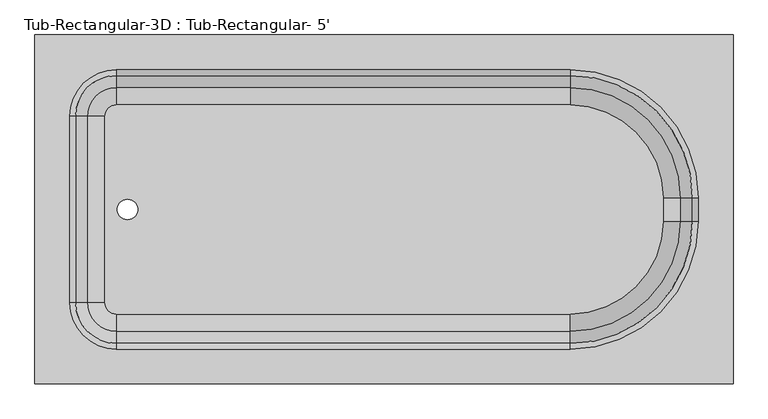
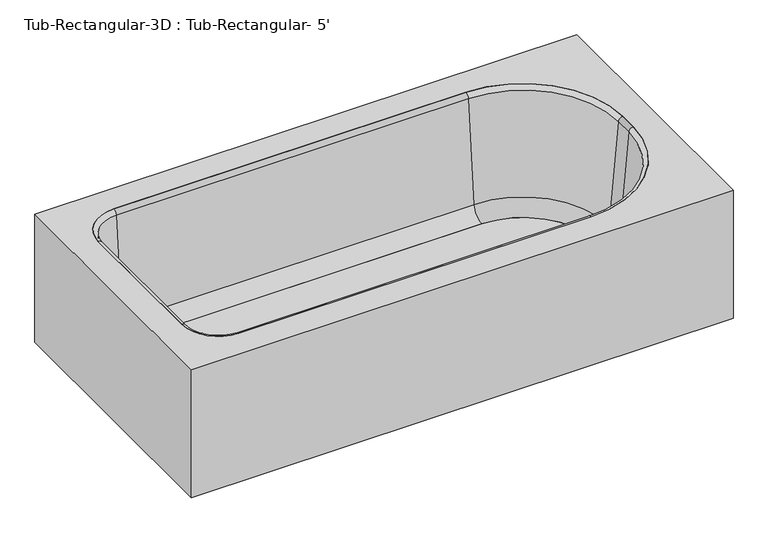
"""IFC4 building model written with IfcOpenShell, lengths in millimetres: flow terminal geometry, Tub-Rectangular-3D : Tub-Rectangular- 5'."""

from ifc_helpers import new_model, si_unit, point, frame, frame_2d, origin, place, context, project, spatial, polyline, circle_curve, ellipse_curve, trimmed, segment, composite_curve, outline, extrude, source, transform, mapped, element, save
from ifc_brep_helpers import plane_surface, cylinder_surface, revolved_surface, advanced_brep


def tub_rectangular_3d_tub_rectangular_5_7cde22e7(model_context):
    return source(origin(), model_context, "Body", "SolidModel", [
        advanced_brep(
        [(413.3970313, -823.9125, 381.0), (413.3970313, -61.9125, 381.0), (-1110.6029687, -61.9125, 381.0), (-1110.6029687, -823.9125, 381.0), (-932.8029687, -747.7125, 381.0), (-1034.4029687, -646.1125, 381.0), (-1034.4029687, -239.7125, 381.0), (-932.8029687, -138.1125, 381.0), (57.7970313, -138.1125, 381.0), (337.1970313, -417.5125, 381.0), (337.1970313, -468.3125, 381.0), (57.7970313, -747.7125, 381.0), (394.3470313, -804.8625, 361.95), (-1091.5529687, -804.8625, 361.95), (-1091.5529687, -80.9625, 361.95), (394.3470313, -80.9625, 361.95), (-932.8029687, -747.7125, 361.95), (57.7970313, -747.7125, 361.95), (337.1970313, -468.3125, 361.95), (337.1970313, -417.5125, 361.95), (57.7970313, -138.1125, 361.95), (-932.8029687, -138.1125, 361.95), (-1034.4029687, -239.7125, 361.95), (-1034.4029687, -646.1125, 361.95), (-1110.6029687, -823.9125, 0.0), (413.3970313, -823.9125, 0.0), (-1110.6029687, -61.9125, 0.0), (413.3970313, -61.9125, 0.0), (394.3470313, -804.8625, 0.0), (394.3470313, -80.9625, 0.0), (-1091.5529687, -80.9625, 0.0), (-1091.5529687, -804.8625, 0.0)],
        [
            (0, 1),
            (1, 2),
            (2, 3),
            (3, 0),
            (4, 5, circle_curve(frame((-932.8029687, -646.1125, 381.0), z_axis=(0.0, 0.0, -1.0), x_axis=(0.0, -1.0, 0.0)), 101.6)),
            (5, 6),
            (6, 7, circle_curve(frame((-932.8029687, -239.7125, 381.0), z_axis=(0.0, 0.0, -1.0), x_axis=(0.0, -1.0, 0.0)), 101.6)),
            (7, 8),
            (8, 9, circle_curve(frame((57.7970313, -417.5125, 381.0), z_axis=(0.0, 0.0, -1.0), x_axis=(0.0, -1.0, 0.0)), 279.4)),
            (9, 10),
            (10, 11, circle_curve(frame((57.7970313, -468.3125, 381.0), z_axis=(0.0, 0.0, -1.0), x_axis=(0.0, -1.0, 0.0)), 279.4)),
            (11, 4),
            (12, 13),
            (13, 14),
            (14, 15),
            (15, 12),
            (16, 17),
            (17, 18, circle_curve(frame((57.7970313, -468.3125, 361.95), z_axis=(0.0, 0.0, 1.0), x_axis=(0.0, -1.0, 0.0)), 279.4)),
            (18, 19),
            (19, 20, circle_curve(frame((57.7970313, -417.5125, 361.95), z_axis=(0.0, 0.0, 1.0), x_axis=(0.0, -1.0, 0.0)), 279.4)),
            (20, 21),
            (21, 22, circle_curve(frame((-932.8029687, -239.7125, 361.95), z_axis=(0.0, 0.0, 1.0), x_axis=(0.0, -1.0, 0.0)), 101.6)),
            (22, 23),
            (23, 16, circle_curve(frame((-932.8029687, -646.1125, 361.95), z_axis=(0.0, 0.0, 1.0), x_axis=(0.0, -1.0, 0.0)), 101.6)),
            (3, 24),
            (24, 25),
            (25, 0),
            (2, 26),
            (26, 24),
            (1, 27),
            (27, 26),
            (25, 27),
            (11, 17),
            (16, 4),
            (10, 18),
            (9, 19),
            (8, 20),
            (7, 21),
            (6, 22),
            (5, 23),
            (28, 29),
            (29, 30),
            (30, 31),
            (31, 28),
            (28, 12),
            (15, 29),
            (14, 30),
            (13, 31),
        ],
        [
            plane_surface(frame((-1110.6029687, -823.9125, 381.0), z_axis=(0.0, 0.0, 1.0), x_axis=(-1.0, 0.0, 0.0))),
            plane_surface(frame((-1110.6029687, -823.9125, 361.95), z_axis=(0.0, 0.0, -1.0), x_axis=(1.0, 0.0, 0.0))),
            plane_surface(frame((413.3970313, -823.9125, 381.0), z_axis=(0.0, -1.0, 0.0), x_axis=(0.0, 0.0, -1.0))),
            plane_surface(frame((-1110.6029687, -823.9125, 381.0), z_axis=(-1.0, 0.0, 0.0), x_axis=(0.0, 0.0, -1.0))),
            plane_surface(frame((-1110.6029687, -61.9125, 381.0), z_axis=(0.0, 1.0, 0.0), x_axis=(0.0, 0.0, -1.0))),
            plane_surface(frame((413.3970313, -61.9125, 381.0), z_axis=(1.0, 0.0, 0.0), x_axis=(0.0, 0.0, -1.0))),
            plane_surface(frame((-932.8029687, -747.7125, 381.0), z_axis=(0.0, 1.0, 0.0), x_axis=(0.0, 0.0, -1.0))),
            revolved_surface(polyline([(57.7970313, -747.7125, 361.95), (57.7970313, -747.7125, 381.0)]), (57.7970313, -468.3125, 381.0), (0.0, 0.0, -1.0)),
            plane_surface(frame((337.1970313, -468.3125, 381.0), z_axis=(-1.0, 0.0, 0.0), x_axis=(0.0, 0.0, -1.0))),
            revolved_surface(polyline([(57.7970313, -696.9124999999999, 361.95), (57.7970313, -696.9124999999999, 381.0)]), (57.7970313, -417.5125, 381.0), (0.0, 0.0, -1.0)),
            plane_surface(frame((57.7970313, -138.1125, 381.0), z_axis=(0.0, -1.0, 0.0), x_axis=(0.0, 0.0, -1.0))),
            revolved_surface(polyline([(-932.8029687, -341.3125, 361.95), (-932.8029687, -341.3125, 381.0)]), (-932.8029687, -239.7125, 381.0), (0.0, 0.0, -1.0)),
            plane_surface(frame((-1034.4029687, -239.7125, 381.0), z_axis=(1.0, 0.0, 0.0), x_axis=(0.0, 0.0, -1.0))),
            revolved_surface(polyline([(-932.8029687, -747.7125, 361.95), (-932.8029687, -747.7125, 381.0)]), (-932.8029687, -646.1125, 381.0), (0.0, 0.0, -1.0)),
            plane_surface(frame((-1110.6029687, -823.9125, 0.0), z_axis=(0.0, 0.0, -1.0), x_axis=(1.0, 0.0, 0.0))),
            plane_surface(frame((394.3470313, -804.8625, 361.95), z_axis=(-1.0, 0.0, 0.0), x_axis=(0.0, 0.0, -1.0))),
            plane_surface(frame((394.3470313, -80.9625, 361.95), z_axis=(0.0, -1.0, 0.0), x_axis=(0.0, 0.0, -1.0))),
            plane_surface(frame((-1091.5529687, -80.9625, 361.95), z_axis=(1.0, 0.0, 0.0), x_axis=(0.0, 0.0, -1.0))),
            plane_surface(frame((-1091.5529687, -804.8625, 361.95), z_axis=(0.0, 1.0, 0.0), x_axis=(0.0, 0.0, -1.0))),
        ],
        [
            (0, [[1, 2, 3, 4], [5, 6, 7, 8, 9, 10, 11, 12]]),
            (1, [[13, 14, 15, 16], [17, 18, 19, 20, 21, 22, 23, 24]]),
            (2, [[25, 26, 27, -4]]),
            (3, [[28, 29, -25, -3]]),
            (4, [[30, 31, -28, -2]]),
            (5, [[32, -30, -1, -27]]),
            (6, [[33, -17, 34, -12]]),
            (7, [[35, -18, -33, -11]]),
            (8, [[36, -19, -35, -10]]),
            (9, [[37, -20, -36, -9]]),
            (10, [[38, -21, -37, -8]]),
            (11, [[39, -22, -38, -7]]),
            (12, [[40, -23, -39, -6]]),
            (13, [[-34, -24, -40, -5]]),
            (14, [[-26, -29, -31, -32], [41, 42, 43, 44]]),
            (15, [[45, -16, 46, -41]]),
            (16, [[-46, -15, 47, -42]]),
            (17, [[-47, -14, 48, -43]]),
            (18, [[-48, -13, -45, -44]]),
        ],
    ),
        extrude(outline(composite_curve([segment(polyline([(57.7970313, -671.1089741), (-932.8029687, -671.1089741)]), True, "CONTINUOUS"), segment(trimmed(circle_curve(frame_2d((-932.8029687, -646.1125)), 24.9964741), [point((-932.8029687, -671.1089741))], [point((-957.7994428, -646.1125))], False, "CARTESIAN"), True, "CONTINUOUS"), segment(polyline([(-957.7994428, -646.1125), (-957.7994428, -239.7125)]), True, "CONTINUOUS"), segment(trimmed(circle_curve(frame_2d((-932.8029687, -239.7125)), 24.9964741), [point((-957.7994428, -239.7125))], [point((-932.8029687, -214.7160259))], False, "CARTESIAN"), True, "CONTINUOUS"), segment(polyline([(-932.8029687, -214.7160259), (57.7970313, -214.7160259)]), True, "CONTINUOUS"), segment(trimmed(circle_curve(frame_2d((57.7970313, -417.5125)), 202.7964741), [point((57.7970313, -214.7160259))], [point((260.5935054, -417.5125))], False, "CARTESIAN"), True, "CONTINUOUS"), segment(polyline([(260.5935054, -417.5125), (260.5935054, -468.3125)]), True, "CONTINUOUS"), segment(trimmed(circle_curve(frame_2d((57.7970313, -468.3125)), 202.7964741), [point((260.5935054, -468.3125))], [point((57.7970313, -671.1089741))], False, "CARTESIAN"), True, "CONTINUOUS")], self_intersect=False), holes=[composite_curve([segment(trimmed(circle_curve(frame_2d((-908.510206, -442.9125)), 22.225), [point((-908.510206, -465.1375))], [point((-908.510206, -420.6875))], True, "CARTESIAN"), True, "CONTINUOUS"), segment(trimmed(circle_curve(frame_2d((-908.510206, -442.9125)), 22.225), [point((-908.510206, -420.6875))], [point((-908.510206, -465.1375))], True, "CARTESIAN"), True, "CONTINUOUS")], self_intersect=False)]), frame((0.0, 0.0, 16.863573), z_axis=(0.0, 0.0, 1.0), x_axis=(1.0, 0.0, 0.0)), (0.0, 0.0, 1.0), 19.05),
        advanced_brep(
        [(-995.7544608, -646.1125, 70.6929392), (-1021.9249722, -646.1125, 369.8232535), (-932.8029687, -735.2345035, 369.8232535), (-932.8029687, -709.0639921, 70.6929392), (-957.7994428, -646.1125, 35.913573), (-932.8029687, -671.1089741, 35.913573), (-957.7994428, -646.1125, 16.863573), (-932.8029687, -671.1089741, 16.863573), (-1034.4029687, -646.1125, 16.863573), (-932.8029687, -747.7125, 16.863573), (-1034.4029687, -646.1125, 381.0), (-932.8029687, -747.7125, 381.0), (-995.7544608, -239.7125, 70.6929392), (-1021.9249722, -239.7125, 369.8232535), (-957.7994428, -239.7125, 35.913573), (-957.7994428, -239.7125, 16.863573), (-1034.4029687, -239.7125, 16.863573), (-1034.4029687, -239.7125, 381.0), (-932.8029687, -176.7610079, 70.6929392), (-932.8029687, -150.5904965, 369.8232535), (-932.8029687, -214.7160259, 35.913573), (-932.8029687, -214.7160259, 16.863573), (-932.8029687, -138.1125, 16.863573), (-932.8029687, -138.1125, 381.0), (57.7970313, -176.7610079, 70.6929392), (57.7970313, -150.5904965, 369.8232535), (57.7970313, -214.7160259, 35.913573), (57.7970313, -214.7160259, 16.863573), (57.7970313, -138.1125, 16.863573), (57.7970313, -138.1125, 381.0), (298.5485234, -417.5125, 70.6929392), (324.7190348, -417.5125, 369.8232535), (260.5935054, -417.5125, 35.913573), (260.5935054, -417.5125, 16.863573), (337.1970313, -417.5125, 16.863573), (337.1970313, -417.5125, 381.0), (298.5485234, -468.3125, 70.6929392), (324.7190348, -468.3125, 369.8232535), (260.5935054, -468.3125, 35.913573), (260.5935054, -468.3125, 16.863573), (337.1970313, -468.3125, 16.863573), (337.1970313, -468.3125, 381.0), (57.7970313, -709.0639921, 70.6929392), (57.7970313, -735.2345035, 369.8232535), (57.7970313, -671.1089741, 35.913573), (57.7970313, -671.1089741, 16.863573), (57.7970313, -747.7125, 16.863573), (57.7970313, -747.7125, 381.0)],
        [
            (0, 1),
            (1, 2, circle_curve(frame((-932.8029687, -646.1125, 369.8232535), z_axis=(0.0, 0.0, 1.0), x_axis=(0.0, -1.0, 0.0)), 89.1220035)),
            (2, 3),
            (3, 0, circle_curve(frame((-932.8029687, -646.1125, 70.6929392), z_axis=(0.0, 0.0, -1.0), x_axis=(0.0, -1.0, 0.0)), 62.9514921)),
            (4, 0, circle_curve(frame((-957.7994428, -646.1125, 74.013573), z_axis=(0.0, 1.0, 0.0), x_axis=(1.0, 0.0, 0.0)), 38.1)),
            (3, 5, circle_curve(frame((-932.8029687, -671.1089741, 74.013573), z_axis=(1.0, 0.0, 0.0), x_axis=(0.0, 1.0, 0.0)), 38.1)),
            (5, 4, circle_curve(frame((-932.8029687, -646.1125, 35.913573), z_axis=(0.0, 0.0, -1.0), x_axis=(0.0, -1.0, 0.0)), 24.9964741)),
            (6, 4),
            (5, 7),
            (7, 6, circle_curve(frame((-932.8029687, -646.1125, 16.863573), z_axis=(0.0, 0.0, -1.0), x_axis=(0.0, -1.0, 0.0)), 24.9964741)),
            (8, 6),
            (7, 9),
            (9, 8, circle_curve(frame((-932.8029687, -646.1125, 16.863573), z_axis=(0.0, 0.0, -1.0), x_axis=(0.0, -1.0, 0.0)), 101.6)),
            (10, 8),
            (9, 11),
            (11, 10, circle_curve(frame((-932.8029687, -646.1125, 381.0), z_axis=(0.0, 0.0, -1.0), x_axis=(0.0, -1.0, 0.0)), 101.6)),
            (1, 10, circle_curve(frame((-1034.4029687, -646.1125, 368.4462547), z_axis=(0.0, -1.0, 0.0), x_axis=(1.0, 0.0, 0.0)), 12.5537453)),
            (11, 2, circle_curve(frame((-932.8029687, -747.7125, 368.4462547), z_axis=(-1.0, 0.0, 0.0), x_axis=(0.0, 1.0, 0.0)), 12.5537453)),
            (0, 12),
            (12, 13),
            (13, 1),
            (4, 14),
            (14, 12, circle_curve(frame((-957.7994428, -239.7125, 74.013573), z_axis=(0.0, 1.0, 0.0), x_axis=(1.0, 0.0, 0.0)), 38.1)),
            (6, 15),
            (15, 14),
            (8, 16),
            (16, 15),
            (10, 17),
            (17, 16),
            (13, 17, circle_curve(frame((-1034.4029687, -239.7125, 368.4462547), z_axis=(0.0, -1.0, 0.0), x_axis=(1.0, 0.0, 0.0)), 12.5537453)),
            (18, 19),
            (19, 13, circle_curve(frame((-932.8029687, -239.7125, 369.8232535), z_axis=(0.0, 0.0, 1.0), x_axis=(-1.0, 0.0, 0.0)), 89.1220035)),
            (12, 18, circle_curve(frame((-932.8029687, -239.7125, 70.6929392), z_axis=(0.0, 0.0, -1.0), x_axis=(-1.0, 0.0, 0.0)), 62.9514921)),
            (20, 18, circle_curve(frame((-932.8029687, -214.7160259, 74.013573), z_axis=(1.0, 0.0, 0.0), x_axis=(0.0, -1.0, 0.0)), 38.1)),
            (14, 20, circle_curve(frame((-932.8029687, -239.7125, 35.913573), z_axis=(0.0, 0.0, -1.0), x_axis=(-1.0, 0.0, 0.0)), 24.9964741)),
            (21, 20),
            (15, 21, circle_curve(frame((-932.8029687, -239.7125, 16.863573), z_axis=(0.0, 0.0, -1.0), x_axis=(-1.0, 0.0, 0.0)), 24.9964741)),
            (22, 21),
            (16, 22, circle_curve(frame((-932.8029687, -239.7125, 16.863573), z_axis=(0.0, 0.0, -1.0), x_axis=(-1.0, 0.0, 0.0)), 101.6)),
            (23, 22),
            (17, 23, circle_curve(frame((-932.8029687, -239.7125, 381.0), z_axis=(0.0, 0.0, -1.0), x_axis=(-1.0, 0.0, 0.0)), 101.6)),
            (19, 23, circle_curve(frame((-932.8029687, -138.1125, 368.4462547), z_axis=(-1.0, 0.0, 0.0), x_axis=(0.0, -1.0, 0.0)), 12.5537453)),
            (18, 24),
            (24, 25),
            (25, 19),
            (20, 26),
            (26, 24, circle_curve(frame((57.7970313, -214.7160259, 74.013573), z_axis=(1.0, 0.0, 0.0), x_axis=(0.0, -1.0, 0.0)), 38.1)),
            (21, 27),
            (27, 26),
            (22, 28),
            (28, 27),
            (23, 29),
            (29, 28),
            (25, 29, circle_curve(frame((57.7970313, -138.1125, 368.4462547), z_axis=(-1.0, 0.0, 0.0), x_axis=(0.0, -1.0, 0.0)), 12.5537453)),
            (30, 31),
            (31, 25, circle_curve(frame((57.7970313, -417.5125, 369.8232535), z_axis=(0.0, 0.0, 1.0), x_axis=(0.0, 1.0, 0.0)), 266.9220035)),
            (24, 30, circle_curve(frame((57.7970313, -417.5125, 70.6929392), z_axis=(0.0, 0.0, -1.0), x_axis=(0.0, 1.0, 0.0)), 240.7514921)),
            (32, 30, circle_curve(frame((260.5935054, -417.5125, 74.013573), z_axis=(0.0, -1.0, 0.0), x_axis=(-1.0, 0.0, 0.0)), 38.1)),
            (26, 32, circle_curve(frame((57.7970313, -417.5125, 35.913573), z_axis=(0.0, 0.0, -1.0), x_axis=(0.0, 1.0, 0.0)), 202.7964741)),
            (33, 32),
            (27, 33, circle_curve(frame((57.7970313, -417.5125, 16.863573), z_axis=(0.0, 0.0, -1.0), x_axis=(0.0, 1.0, 0.0)), 202.7964741)),
            (34, 33),
            (28, 34, circle_curve(frame((57.7970313, -417.5125, 16.863573), z_axis=(0.0, 0.0, -1.0), x_axis=(0.0, 1.0, 0.0)), 279.4)),
            (35, 34),
            (29, 35, circle_curve(frame((57.7970313, -417.5125, 381.0), z_axis=(0.0, 0.0, -1.0), x_axis=(0.0, 1.0, 0.0)), 279.4)),
            (31, 35, circle_curve(frame((337.1970313, -417.5125, 368.4462547), z_axis=(0.0, 1.0, 0.0), x_axis=(-1.0, 0.0, 0.0)), 12.5537453)),
            (30, 36),
            (36, 37),
            (37, 31),
            (32, 38),
            (38, 36, circle_curve(frame((260.5935054, -468.3125, 74.013573), z_axis=(0.0, -1.0, 0.0), x_axis=(-1.0, 0.0, 0.0)), 38.1)),
            (33, 39),
            (39, 38),
            (34, 40),
            (40, 39),
            (35, 41),
            (41, 40),
            (37, 41, circle_curve(frame((337.1970313, -468.3125, 368.4462547), z_axis=(0.0, 1.0, 0.0), x_axis=(-1.0, 0.0, 0.0)), 12.5537453)),
            (42, 43),
            (43, 37, circle_curve(frame((57.7970313, -468.3125, 369.8232535), z_axis=(0.0, 0.0, 1.0), x_axis=(1.0, 0.0, 0.0)), 266.9220035)),
            (36, 42, circle_curve(frame((57.7970313, -468.3125, 70.6929392), z_axis=(0.0, 0.0, -1.0), x_axis=(1.0, 0.0, 0.0)), 240.7514921)),
            (44, 42, circle_curve(frame((57.7970313, -671.1089741, 74.013573), z_axis=(-1.0, 0.0, 0.0), x_axis=(0.0, 1.0, 0.0)), 38.1)),
            (38, 44, circle_curve(frame((57.7970313, -468.3125, 35.913573), z_axis=(0.0, 0.0, -1.0), x_axis=(1.0, 0.0, 0.0)), 202.7964741)),
            (45, 44),
            (39, 45, circle_curve(frame((57.7970313, -468.3125, 16.863573), z_axis=(0.0, 0.0, -1.0), x_axis=(1.0, 0.0, 0.0)), 202.7964741)),
            (46, 45),
            (40, 46, circle_curve(frame((57.7970313, -468.3125, 16.863573), z_axis=(0.0, 0.0, -1.0), x_axis=(1.0, 0.0, 0.0)), 279.4)),
            (47, 46),
            (41, 47, circle_curve(frame((57.7970313, -468.3125, 381.0), z_axis=(0.0, 0.0, -1.0), x_axis=(1.0, 0.0, 0.0)), 279.4)),
            (43, 47, circle_curve(frame((57.7970313, -747.7125, 368.4462547), z_axis=(1.0, 0.0, 0.0), x_axis=(0.0, 1.0, 0.0)), 12.5537453)),
            (42, 3),
            (2, 43),
            (44, 5),
            (45, 7),
            (46, 9),
            (47, 11),
        ],
        [
            revolved_surface(polyline([(-932.8029687, -735.2345035, 369.8232535), (-932.8029687, -709.0639921, 70.6929392)]), (-932.8029687, -646.1125, 381.0), (0.0, 0.0, 1.0)),
            revolved_surface(trimmed(ellipse_curve(frame((-932.8029687, -671.1089741, 74.013573), z_axis=(1.0, 0.0, 0.0), x_axis=(0.0, 1.0, 0.0)), 38.1, 38.1), [point((-932.8029687, -709.0639921, 70.6929392))], [point((-932.8029687, -671.1089741, 35.913573))], True, "CARTESIAN"), (-932.8029687, -646.1125, 381.0), (0.0, 0.0, 1.0)),
            revolved_surface(polyline([(-932.8029687, -671.1089741, 35.913572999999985), (-932.8029687, -671.1089741, 16.863572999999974)]), (-932.8029687, -646.1125, 381.0), (0.0, 0.0, 1.0)),
            plane_surface(frame((-932.8029687, -646.1125, 16.863573), z_axis=(0.0, 0.0, -1.0), x_axis=(0.0, -1.0, 0.0))),
            cylinder_surface(frame((-932.8029687, -646.1125, 381.0), z_axis=(0.0, 0.0, 1.0), x_axis=(0.0, -1.0, 0.0)), 101.6),
            revolved_surface(trimmed(ellipse_curve(frame((-932.8029687, -747.7125, 368.4462547), z_axis=(-1.0, 0.0, 0.0), x_axis=(0.0, 1.0, 0.0)), 12.5537453, 12.5537453), [point((-932.8029687, -747.7125, 381.0))], [point((-932.8029687, -735.2345035, 369.8232535))], True, "CARTESIAN"), (-932.8029687, -646.1125, 381.0), (0.0, 0.0, 1.0)),
            plane_surface(frame((-1021.9249722, -646.1125, 369.8232535), z_axis=(0.9961946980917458, 0.0, 0.08715574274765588), x_axis=(0.0, 1.0, 0.0))),
            revolved_surface(polyline([(-919.6994427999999, -239.71249999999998, 74.013573), (-919.6994427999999, -646.1125, 74.013573)]), (-957.7994428, -646.1125, 74.013573), (0.0, 1.0, 0.0)),
            plane_surface(frame((-957.7994428, -646.1125, 35.913573), z_axis=(1.0, 0.0, 0.0), x_axis=(0.0, 1.0, 0.0))),
            plane_surface(frame((-957.7994428, -646.1125, 16.863573), z_axis=(0.0, 0.0, -1.0), x_axis=(0.0, 1.0, 0.0))),
            plane_surface(frame((-1034.4029687, -646.1125, 16.863573), z_axis=(-1.0, 0.0, 0.0), x_axis=(0.0, 1.0, 0.0))),
            cylinder_surface(frame((-1034.4029687, -646.1125, 368.4462547), z_axis=(0.0, -1.0, 0.0), x_axis=(1.0, 0.0, 0.0)), 12.5537453),
            revolved_surface(polyline([(-1021.9249722, -239.7125, 369.8232535), (-995.7544608, -239.7125, 70.6929392)]), (-932.8029687, -239.7125, 381.0), (0.0, 0.0, 1.0)),
            revolved_surface(trimmed(ellipse_curve(frame((-957.7994428, -239.7125, 74.013573), z_axis=(0.0, -1.0, 0.0), x_axis=(1.0, 0.0, 0.0)), 38.1, 38.1), [point((-995.7544608, -239.7125, 70.6929392))], [point((-957.7994428, -239.7125, 35.913573))], True, "CARTESIAN"), (-932.8029687, -239.7125, 381.0), (0.0, 0.0, 1.0)),
            revolved_surface(polyline([(-957.7994428, -239.7125, 35.913572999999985), (-957.7994428, -239.7125, 16.863572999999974)]), (-932.8029687, -239.7125, 381.0), (0.0, 0.0, 1.0)),
            plane_surface(frame((-932.8029687, -239.7125, 16.863573), z_axis=(0.0, 0.0, -1.0), x_axis=(-1.0, 0.0, 0.0))),
            cylinder_surface(frame((-932.8029687, -239.7125, 381.0), z_axis=(0.0, 0.0, 1.0), x_axis=(-1.0, 0.0, 0.0)), 101.6),
            revolved_surface(trimmed(ellipse_curve(frame((-1034.4029687, -239.7125, 368.4462547), z_axis=(0.0, 1.0, 0.0), x_axis=(1.0, 0.0, 0.0)), 12.5537453, 12.5537453), [point((-1034.4029687, -239.7125, 381.0))], [point((-1021.9249722, -239.7125, 369.8232535))], True, "CARTESIAN"), (-932.8029687, -239.7125, 381.0), (0.0, 0.0, 1.0)),
            plane_surface(frame((-932.8029687, -150.5904965, 369.8232535), z_axis=(0.0, -0.9961946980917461, 0.08715574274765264), x_axis=(1.0, 0.0, 0.0))),
            revolved_surface(polyline([(57.79703129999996, -252.8160259, 74.013573), (-932.8029687, -252.8160259, 74.013573)]), (-932.8029687, -214.7160259, 74.013573), (1.0, 0.0, 0.0)),
            plane_surface(frame((-932.8029687, -214.7160259, 35.913573), z_axis=(0.0, -1.0, 0.0), x_axis=(1.0, 0.0, 0.0))),
            plane_surface(frame((-932.8029687, -214.7160259, 16.863573), z_axis=(0.0, 0.0, -1.0), x_axis=(1.0, 0.0, 0.0))),
            plane_surface(frame((-932.8029687, -138.1125, 16.863573), z_axis=(0.0, 1.0, 0.0), x_axis=(1.0, 0.0, 0.0))),
            cylinder_surface(frame((-932.8029687, -138.1125, 368.4462547), z_axis=(-1.0, 0.0, 0.0), x_axis=(0.0, -1.0, 0.0)), 12.5537453),
            revolved_surface(polyline([(57.7970313, -150.5904965, 369.8232535), (57.7970313, -176.7610079, 70.6929392)]), (57.7970313, -417.5125, 381.0), (0.0, 0.0, 1.0)),
            revolved_surface(trimmed(ellipse_curve(frame((57.7970313, -214.7160259, 74.013573), z_axis=(-1.0, 0.0, 0.0), x_axis=(0.0, -1.0, 0.0)), 38.1, 38.1), [point((57.7970313, -176.7610079, 70.6929392))], [point((57.7970313, -214.7160259, 35.913573))], True, "CARTESIAN"), (57.7970313, -417.5125, 381.0), (0.0, 0.0, 1.0)),
            revolved_surface(polyline([(57.7970313, -214.71602589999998, 35.913572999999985), (57.7970313, -214.71602589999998, 16.863572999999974)]), (57.7970313, -417.5125, 381.0), (0.0, 0.0, 1.0)),
            plane_surface(frame((57.7970313, -417.5125, 16.863573), z_axis=(0.0, 0.0, -1.0), x_axis=(0.0, 1.0, 0.0))),
            cylinder_surface(frame((57.7970313, -417.5125, 381.0), z_axis=(0.0, 0.0, 1.0), x_axis=(0.0, 1.0, 0.0)), 279.4),
            revolved_surface(trimmed(ellipse_curve(frame((57.7970313, -138.1125, 368.4462547), z_axis=(1.0, 0.0, 0.0), x_axis=(0.0, -1.0, 0.0)), 12.5537453, 12.5537453), [point((57.7970313, -138.1125, 381.0))], [point((57.7970313, -150.5904965, 369.8232535))], True, "CARTESIAN"), (57.7970313, -417.5125, 381.0), (0.0, 0.0, 1.0)),
            plane_surface(frame((324.7190348, -417.5125, 369.8232535), z_axis=(-0.9961946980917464, 0.0, 0.08715574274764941), x_axis=(0.0, -1.0, 0.0))),
            revolved_surface(polyline([(222.49350540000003, -468.3125, 74.013573), (222.49350540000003, -417.5125, 74.013573)]), (260.5935054, -417.5125, 74.013573), (0.0, -1.0, 0.0)),
            plane_surface(frame((260.5935054, -417.5125, 35.913573), z_axis=(-1.0, 0.0, 0.0), x_axis=(0.0, -1.0, 0.0))),
            plane_surface(frame((260.5935054, -417.5125, 16.863573), z_axis=(0.0, 0.0, -1.0), x_axis=(0.0, -1.0, 0.0))),
            plane_surface(frame((337.1970313, -417.5125, 16.863573), z_axis=(1.0, 0.0, 0.0), x_axis=(0.0, -1.0, 0.0))),
            cylinder_surface(frame((337.1970313, -417.5125, 368.4462547), z_axis=(0.0, 1.0, 0.0), x_axis=(-1.0, 0.0, 0.0)), 12.5537453),
            revolved_surface(polyline([(324.7190348, -468.3125, 369.8232535), (298.5485234, -468.3125, 70.6929392)]), (57.7970313, -468.3125, 381.0), (0.0, 0.0, 1.0)),
            revolved_surface(trimmed(ellipse_curve(frame((260.5935054, -468.3125, 74.013573), z_axis=(0.0, 1.0, 0.0), x_axis=(-1.0, 0.0, 0.0)), 38.1, 38.1), [point((298.5485234, -468.3125, 70.6929392))], [point((260.5935054, -468.3125, 35.913573))], True, "CARTESIAN"), (57.7970313, -468.3125, 381.0), (0.0, 0.0, 1.0)),
            revolved_surface(polyline([(260.5935054, -468.3125, 35.913572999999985), (260.5935054, -468.3125, 16.863572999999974)]), (57.7970313, -468.3125, 381.0), (0.0, 0.0, 1.0)),
            plane_surface(frame((57.7970313, -468.3125, 16.863573), z_axis=(0.0, 0.0, -1.0), x_axis=(1.0, 0.0, 0.0))),
            cylinder_surface(frame((57.7970313, -468.3125, 381.0), z_axis=(0.0, 0.0, 1.0), x_axis=(1.0, 0.0, 0.0)), 279.4),
            revolved_surface(trimmed(ellipse_curve(frame((337.1970313, -468.3125, 368.4462547), z_axis=(0.0, -1.0, 0.0), x_axis=(-1.0, 0.0, 0.0)), 12.5537453, 12.5537453), [point((337.1970313, -468.3125, 381.0))], [point((324.7190348, -468.3125, 369.8232535))], True, "CARTESIAN"), (57.7970313, -468.3125, 381.0), (0.0, 0.0, 1.0)),
            plane_surface(frame((57.7970313, -735.2345035, 369.8232535), z_axis=(0.0, 0.9961946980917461, 0.08715574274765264), x_axis=(-1.0, 0.0, 0.0))),
            revolved_surface(polyline([(-932.8029687, -633.0089740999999, 74.013573), (57.7970313, -633.0089740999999, 74.013573)]), (57.7970313, -671.1089741, 74.013573), (-1.0, 0.0, 0.0)),
            plane_surface(frame((57.7970313, -671.1089741, 35.913573), z_axis=(0.0, 1.0, 0.0), x_axis=(-1.0, 0.0, 0.0))),
            plane_surface(frame((57.7970313, -671.1089741, 16.863573), z_axis=(0.0, 0.0, -1.0), x_axis=(-1.0, 0.0, 0.0))),
            plane_surface(frame((57.7970313, -747.7125, 16.863573), z_axis=(0.0, -1.0, 0.0), x_axis=(-1.0, 0.0, 0.0))),
            cylinder_surface(frame((57.7970313, -747.7125, 368.4462547), z_axis=(1.0, 0.0, 0.0), x_axis=(0.0, 1.0, 0.0)), 12.5537453),
        ],
        [
            (0, [[1, 2, 3, 4]]),
            (1, [[5, -4, 6, 7]]),
            (2, [[8, -7, 9, 10]]),
            (3, [[11, -10, 12, 13]]),
            (4, [[14, -13, 15, 16]]),
            (5, [[17, -16, 18, -2]]),
            (6, [[19, 20, 21, -1]]),
            (7, [[22, 23, -19, -5]]),
            (8, [[24, 25, -22, -8]]),
            (9, [[26, 27, -24, -11]]),
            (10, [[28, 29, -26, -14]]),
            (11, [[-21, 30, -28, -17]]),
            (12, [[31, 32, -20, 33]]),
            (13, [[34, -33, -23, 35]]),
            (14, [[36, -35, -25, 37]]),
            (15, [[38, -37, -27, 39]]),
            (16, [[40, -39, -29, 41]]),
            (17, [[42, -41, -30, -32]]),
            (18, [[43, 44, 45, -31]]),
            (19, [[46, 47, -43, -34]]),
            (20, [[48, 49, -46, -36]]),
            (21, [[50, 51, -48, -38]]),
            (22, [[52, 53, -50, -40]]),
            (23, [[-45, 54, -52, -42]]),
            (24, [[55, 56, -44, 57]]),
            (25, [[58, -57, -47, 59]]),
            (26, [[60, -59, -49, 61]]),
            (27, [[62, -61, -51, 63]]),
            (28, [[64, -63, -53, 65]]),
            (29, [[66, -65, -54, -56]]),
            (30, [[67, 68, 69, -55]]),
            (31, [[70, 71, -67, -58]]),
            (32, [[72, 73, -70, -60]]),
            (33, [[74, 75, -72, -62]]),
            (34, [[76, 77, -74, -64]]),
            (35, [[-69, 78, -76, -66]]),
            (36, [[79, 80, -68, 81]]),
            (37, [[82, -81, -71, 83]]),
            (38, [[84, -83, -73, 85]]),
            (39, [[86, -85, -75, 87]]),
            (40, [[88, -87, -77, 89]]),
            (41, [[90, -89, -78, -80]]),
            (42, [[91, -3, 92, -79]]),
            (43, [[93, -6, -91, -82]]),
            (44, [[94, -9, -93, -84]]),
            (45, [[95, -12, -94, -86]]),
            (46, [[96, -15, -95, -88]]),
            (47, [[-92, -18, -96, -90]]),
        ],
    ),
    ])


if __name__ == "__main__":
    model = new_model("IFC4")
    model_context = context("Model", 3, world=origin())
    ifc_project = project(units=[si_unit("LENGTHUNIT", "METRE", prefix="MILLI")], contexts=[model_context])
    site = spatial("IfcSite", under=ifc_project)
    building = spatial("IfcBuilding", under=site)
    placement = place(None, origin())
    tub_rectangular_3d_tub_rectangular_5_shape = tub_rectangular_3d_tub_rectangular_5_7cde22e7(model_context)
    element("IfcFlowTerminal", 1, ObjectType="Tub-Rectangular-3D : Tub-Rectangular- 5'", at=placement, inside=building, context=model_context, shape_type="MappedRepresentation", body=[
        mapped(tub_rectangular_3d_tub_rectangular_5_shape, transform((0.0, 0.0, 0.0), x_axis=(1.0, 0.0, 0.0), y_axis=(0.0, 1.0, 0.0), z_axis=(0.0, 0.0, 1.0))),
    ])
    save(model, "model.ifc")
